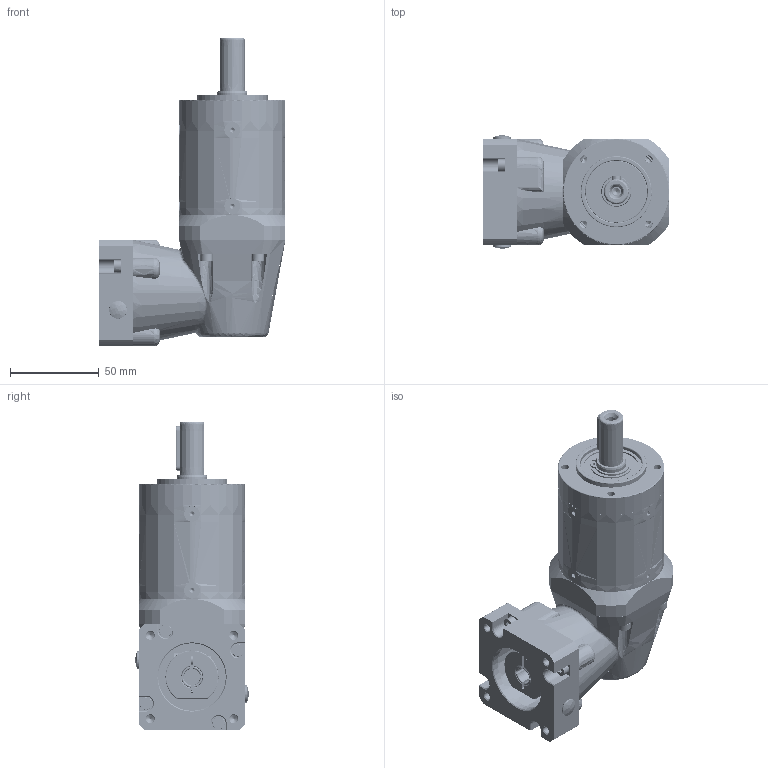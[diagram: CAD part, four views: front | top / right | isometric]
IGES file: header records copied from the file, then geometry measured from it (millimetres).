
Start section: SolidWorks IGES file using analytic representation for surfaces
Global section: file name: C:\TeknicPDM\Remarketed and Private Label Products\Gearboxes\Gearbox Customer Files\GSLR (Newstart WPL Series)\GSLR-060-0_ _-N023_-XX Two Stage.IGS; native system: SolidWorks 2020; preprocessor: SolidWorks 2020; author: zeb_koch; date: 250826.110816; units: millimetre
Bounding box: 105.5 x 63.92 x 174.02 mm (x, y, z)
Surface area: 144949.4 mm2 (no closed solid volume)
Topology: 0 solids, 0 shells, 1700 faces, 30812 edges, 30670 vertices
Faces by surface type: bspline 942, revolution 758
